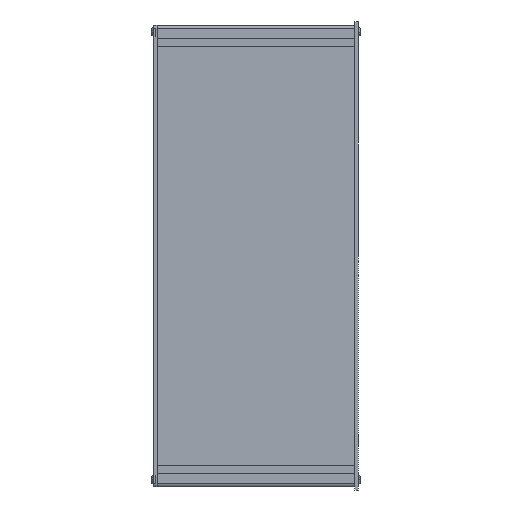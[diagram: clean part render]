
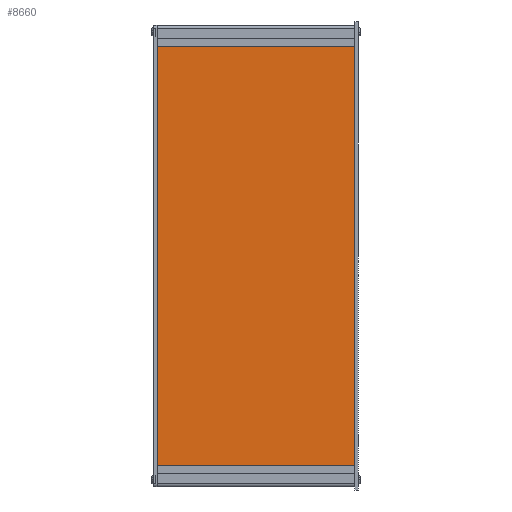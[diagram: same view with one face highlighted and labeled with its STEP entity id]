
A CAD part, left-side view. The second image highlights one B-rep face of the part: STEP entity #8660.
In plain terms, the highlighted planar face has unit normal (-1, 0, 0).
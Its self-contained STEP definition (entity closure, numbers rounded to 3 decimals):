
#952=PLANE('',#9524);
#1250=FACE_OUTER_BOUND('',#1790,.T.);
#1790=EDGE_LOOP('',(#6637,#6638,#6639,#6640));
#2564=LINE('',#13700,#3252);
#2574=LINE('',#13721,#3262);
#2575=LINE('',#13723,#3263);
#2576=LINE('',#13724,#3264);
#3252=VECTOR('',#10976,10.);
#3262=VECTOR('',#10994,10.);
#3263=VECTOR('',#10995,10.);
#3264=VECTOR('',#10996,10.);
#4260=VERTEX_POINT('',#13693);
#4263=VERTEX_POINT('',#13698);
#4270=VERTEX_POINT('',#13720);
#4271=VERTEX_POINT('',#13722);
#5115=EDGE_CURVE('',#4260,#4263,#2564,.T.);
#5125=EDGE_CURVE('',#4260,#4270,#2574,.T.);
#5126=EDGE_CURVE('',#4271,#4263,#2575,.T.);
#5127=EDGE_CURVE('',#4270,#4271,#2576,.T.);
#6637=ORIENTED_EDGE('',*,*,#5125,.F.);
#6638=ORIENTED_EDGE('',*,*,#5115,.T.);
#6639=ORIENTED_EDGE('',*,*,#5126,.F.);
#6640=ORIENTED_EDGE('',*,*,#5127,.F.);
#8660=ADVANCED_FACE('',(#1250),#952,.T.);
#9524=AXIS2_PLACEMENT_3D('',#13719,#10992,#10993);
#10976=DIRECTION('',(0.,1.,0.));
#10992=DIRECTION('center_axis',(-1.,0.,0.));
#10993=DIRECTION('ref_axis',(0.,0.,1.));
#10994=DIRECTION('',(0.,0.,-1.));
#10995=DIRECTION('',(0.,0.,1.));
#10996=DIRECTION('',(0.,1.,0.));
#13693=CARTESIAN_POINT('',(239.,0.,114.7));
#13698=CARTESIAN_POINT('',(239.,150.,114.7));
#13700=CARTESIAN_POINT('',(239.,0.,114.7));
#13719=CARTESIAN_POINT('Origin',(239.,0.,-202.8));
#13720=CARTESIAN_POINT('',(239.,0.,-202.8));
#13721=CARTESIAN_POINT('',(239.,0.,-44.05));
#13722=CARTESIAN_POINT('',(239.,150.,-202.8));
#13723=CARTESIAN_POINT('',(239.,150.,-44.05));
#13724=CARTESIAN_POINT('',(239.,0.,-202.8));
